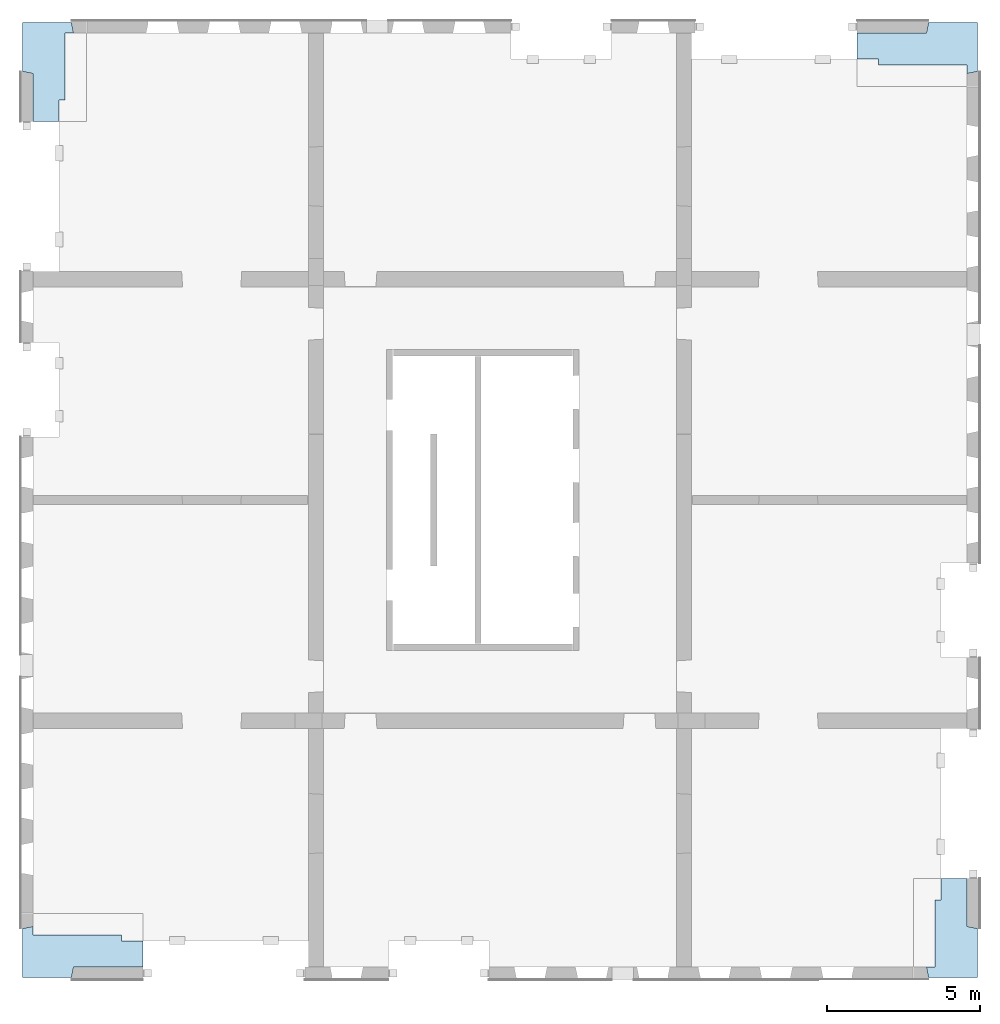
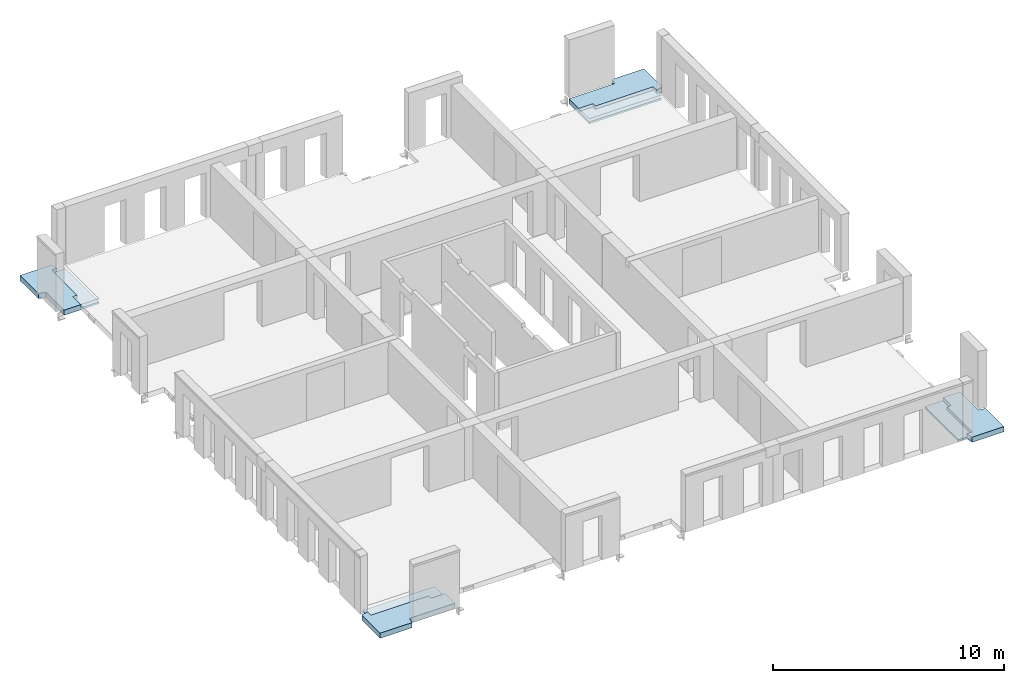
# One storey, part 5 of 6: 4 slabs.
"""IFC2X3 building model written with IfcOpenShell, lengths in millimetres."""

from ifc_helpers import new_model, entity, si_unit, converted_unit, derived_unit, direction, frame, origin, place, context, subcontext, project, spatial, faceted_brep, element, save


model = new_model("IFC2X3")

# Units and contexts
model_context = context("Model", 3, precision=0.01, world=origin(), true_north=direction((6.12303176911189e-17, 1.0)))
body_context = subcontext(model_context, "Body", "Model", "MODEL_VIEW")
ifc_project = project(units=[si_unit("LENGTHUNIT", "METRE", prefix="MILLI"), si_unit("AREAUNIT", "SQUARE_METRE"), si_unit("VOLUMEUNIT", "CUBIC_METRE"), converted_unit("PLANEANGLEUNIT", "DEGREE", entity("IfcRatioMeasure", 0.0174532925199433), si_unit("PLANEANGLEUNIT", "RADIAN"), dimensions=[0, 0, 0, 0, 0, 0, 0]), si_unit("MASSUNIT", "GRAM", prefix="KILO"), derived_unit("MASSDENSITYUNIT", [(si_unit("MASSUNIT", "GRAM", prefix="KILO"), 1), (si_unit("LENGTHUNIT", "METRE"), -3)]), si_unit("TIMEUNIT", "SECOND"), si_unit("FREQUENCYUNIT", "HERTZ"), si_unit("THERMODYNAMICTEMPERATUREUNIT", "DEGREE_CELSIUS"), derived_unit("THERMALTRANSMITTANCEUNIT", [(si_unit("MASSUNIT", "GRAM", prefix="KILO"), 1), (si_unit("THERMODYNAMICTEMPERATUREUNIT", "KELVIN"), -1), (si_unit("TIMEUNIT", "SECOND"), -3)]), derived_unit("VOLUMETRICFLOWRATEUNIT", [(si_unit("LENGTHUNIT", "METRE"), 3), (si_unit("TIMEUNIT", "SECOND"), -1)]), si_unit("ELECTRICCURRENTUNIT", "AMPERE"), si_unit("ELECTRICVOLTAGEUNIT", "VOLT"), si_unit("POWERUNIT", "WATT"), si_unit("FORCEUNIT", "NEWTON", prefix="KILO"), si_unit("ILLUMINANCEUNIT", "LUX"), si_unit("LUMINOUSFLUXUNIT", "LUMEN"), si_unit("LUMINOUSINTENSITYUNIT", "CANDELA"), derived_unit("USERDEFINED", [(si_unit("MASSUNIT", "GRAM", prefix="KILO"), -1), (si_unit("LENGTHUNIT", "METRE"), -2), (si_unit("TIMEUNIT", "SECOND"), 3), (si_unit("LUMINOUSFLUXUNIT", "LUMEN"), 1)]), derived_unit("LINEARVELOCITYUNIT", [(si_unit("LENGTHUNIT", "METRE"), 1), (si_unit("TIMEUNIT", "SECOND"), -1)]), si_unit("PRESSUREUNIT", "PASCAL"), derived_unit("USERDEFINED", [(si_unit("LENGTHUNIT", "METRE"), -2), (si_unit("MASSUNIT", "GRAM", prefix="KILO"), 1), (si_unit("TIMEUNIT", "SECOND"), -2)])], contexts=[model_context])

# Site, building, storey
site_placement = place(None, origin())
site = spatial("IfcSite", under=ifc_project, at=site_placement, Name="Default", CompositionType="ELEMENT")
building_placement = place(site_placement, origin())
building = spatial("IfcBuilding", under=site, at=building_placement, Name="niet gebruiken", CompositionType="ELEMENT")
storey_placement = place(building_placement, frame((0.0, 0.0, 21060.0)))
storey = spatial("IfcBuildingStorey", under=building, at=storey_placement, Name="06 zesde verdieping", CompositionType="ELEMENT", Elevation=21060.0)

# Slabs
slab_1_placement = place(storey_placement, origin())
element("IfcSlab", 1, at=slab_1_placement, inside=storey, Name="Floor:NLRS_23.22_FL_beton prefab d=270 3D element_gen", ObjectType="Floor:NLRS_23.22_FL_beton prefab d=270 3D element_gen", PredefinedType="LANDING", context=body_context, shape_type="Brep", body=[
    faceted_brep([(155722.852664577, 33063.0, -360.0), (157313.0, 33063.0, -360.0), (157313.0, 31472.8526645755, -360.0), (156980.0, 31405.0, -360.0), (156980.0, 30980.0, -360.0), (153390.0, 30980.0, -360.0), (153390.0, 32730.0, -360.0), (155655.0, 32730.0, -360.0), (157313.0, 33063.0, -90.0), (155722.852664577, 33063.0, -90.0), (155655.0, 32730.0, -90.0), (153390.0, 32730.0, -90.0), (153390.0, 31880.0, -90.0), (154090.0, 31880.0, -90.0), (154090.0, 31680.0, -90.0), (156980.0, 31680.0, -90.0), (156980.0, 31405.0, -90.0), (157313.0, 31472.8526645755, -90.0), (156980.0, 30980.0, -260.0), (153390.0, 30980.0, -260.0), (153390.0, 31880.0, -260.0), (156980.0, 31405.0, -260.0), (154090.0, 31880.0, -260.0), (156980.0, 31680.0, -260.0), (154090.0, 31680.0, -260.0)], [[[0, 1, 2, 3, 4, 5, 6, 7]], [[8, 9, 10, 11, 12, 13, 14, 15, 16, 17]], [[1, 0, 9, 8]], [[2, 1, 8, 17]], [[5, 4, 18, 19]], [[6, 5, 19, 20, 12, 11]], [[7, 6, 11, 10]], [[0, 7, 10, 9]], [[3, 2, 17, 16, 21]], [[4, 3, 21, 18]], [[22, 20, 19, 18, 21, 23, 24]], [[20, 22, 13, 12]], [[22, 24, 14, 13]], [[24, 23, 15, 14]], [[15, 23, 21, 16]]]),
])
slab_2_placement = place(storey_placement, origin())
element("IfcSlab", 2, at=slab_2_placement, inside=storey, Name="Floor:NLRS_23.22_FL_beton prefab d=270 3D element_gen", ObjectType="Floor:NLRS_23.22_FL_beton prefab d=270 3D element_gen", PredefinedType="LANDING", context=body_context, shape_type="Brep", body=[
    faceted_brep([(126187.0, 31472.852664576, -360.0), (126187.0, 33063.0, -360.0), (127777.147335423, 33063.0, -360.0), (127845.0, 32730.0, -360.0), (128270.0, 32730.0, -360.0), (128270.0, 29840.0, -360.0), (126520.0, 29840.0, -360.0), (126520.0, 31405.0, -360.0), (126187.0, 33063.0, -90.0), (126187.0, 31472.852664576, -90.0), (126520.0, 31405.0, -90.0), (126520.0, 29840.0, -90.0), (127370.0, 29840.0, -90.0), (127370.0, 30540.0, -90.0), (127570.0, 30540.0, -90.0), (127570.0, 32730.0, -90.0), (127845.0, 32730.0, -90.0), (127777.147335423, 33063.0, -90.0), (128270.0, 32730.0, -260.0), (128270.0, 29840.0, -260.0), (127370.0, 29840.0, -260.0), (127845.0, 32730.0, -260.0), (127370.0, 30540.0, -260.0), (127570.0, 32730.0, -260.0), (127570.0, 30540.0, -260.0)], [[[0, 1, 2, 3, 4, 5, 6, 7]], [[8, 9, 10, 11, 12, 13, 14, 15, 16, 17]], [[1, 0, 9, 8]], [[2, 1, 8, 17]], [[5, 4, 18, 19]], [[6, 5, 19, 20, 12, 11]], [[7, 6, 11, 10]], [[0, 7, 10, 9]], [[3, 2, 17, 16, 21]], [[4, 3, 21, 18]], [[22, 20, 19, 18, 21, 23, 24]], [[15, 23, 21, 16]], [[20, 22, 13, 12]], [[22, 24, 14, 13]], [[24, 23, 15, 14]]]),
])
slab_3_placement = place(storey_placement, origin())
element("IfcSlab", 3, at=slab_3_placement, inside=storey, Name="Floor:NLRS_23.22_FL_beton prefab d=270 3D element_gen", ObjectType="Floor:NLRS_23.22_FL_beton prefab d=270 3D element_gen", PredefinedType="LANDING", context=body_context, shape_type="Brep", body=[
    faceted_brep([(157313.0, 3527.14733542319, -360.0), (157313.0, 1937.0, -360.0), (155722.852664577, 1937.0, -360.0), (155655.0, 2270.0, -360.0), (155230.0, 2270.0, -360.0), (155230.0, 5160.0, -360.0), (156980.0, 5160.0, -360.0), (156980.0, 3595.0, -360.0), (157313.0, 1937.0, -90.0), (157313.0, 3527.14733542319, -90.0), (156980.0, 3595.0, -90.0), (156980.0, 5160.0, -90.0), (156130.0, 5160.0, -90.0), (156130.0, 4460.0, -90.0), (155930.0, 4460.0, -90.0), (155930.0, 2270.0, -90.0), (155655.0, 2270.0, -90.0), (155722.852664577, 1937.0, -90.0), (155230.0, 2270.0, -260.0), (155230.0, 5160.0, -260.0), (156130.0, 5160.0, -260.0), (155655.0, 2270.0, -260.0), (156130.0, 4460.0, -260.0), (155930.0, 2270.0, -260.0), (155930.0, 4460.0, -260.0)], [[[0, 1, 2, 3, 4, 5, 6, 7]], [[8, 9, 10, 11, 12, 13, 14, 15, 16, 17]], [[1, 0, 9, 8]], [[2, 1, 8, 17]], [[5, 4, 18, 19]], [[6, 5, 19, 20, 12, 11]], [[7, 6, 11, 10]], [[0, 7, 10, 9]], [[3, 2, 17, 16, 21]], [[4, 3, 21, 18]], [[22, 20, 19, 18, 21, 23, 24]], [[15, 23, 21, 16]], [[20, 22, 13, 12]], [[22, 24, 14, 13]], [[24, 23, 15, 14]]]),
])
slab_4_placement = place(storey_placement, origin())
element("IfcSlab", 4, at=slab_4_placement, inside=storey, Name="Floor:NLRS_23.22_FL_beton prefab d=270 3D element_gen", ObjectType="Floor:NLRS_23.22_FL_beton prefab d=270 3D element_gen", PredefinedType="LANDING", context=body_context, shape_type="Brep", body=[
    faceted_brep([(127777.147335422, 1937.0, -360.0), (126187.0, 1937.0, -360.0), (126187.0, 3527.14733542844, -360.0), (126520.0, 3595.0, -360.0), (126520.0, 4020.0, -360.0), (130110.0, 4020.0, -360.0), (130110.0, 2270.0, -360.0), (127845.0, 2270.0, -360.0), (126187.0, 1937.0, -90.0), (127777.147335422, 1937.0, -90.0), (127845.0, 2270.0, -90.0), (130110.0, 2270.0, -90.0), (130110.0, 3120.0, -90.0), (129410.0, 3120.0, -90.0), (129410.0, 3320.0, -90.0), (126520.0, 3320.0, -90.0), (126520.0, 3595.0, -90.0), (126187.0, 3527.14733542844, -90.0), (126520.0, 4020.0, -260.0), (130110.0, 4020.0, -260.0), (130110.0, 3120.0, -260.0), (126520.0, 3595.0, -260.0), (129410.0, 3120.0, -260.0), (126520.0, 3320.0, -260.0), (129410.0, 3320.0, -260.0)], [[[0, 1, 2, 3, 4, 5, 6, 7]], [[8, 9, 10, 11, 12, 13, 14, 15, 16, 17]], [[1, 0, 9, 8]], [[2, 1, 8, 17]], [[5, 4, 18, 19]], [[6, 5, 19, 20, 12, 11]], [[7, 6, 11, 10]], [[0, 7, 10, 9]], [[3, 2, 17, 16, 21]], [[4, 3, 21, 18]], [[22, 20, 19, 18, 21, 23, 24]], [[20, 22, 13, 12]], [[22, 24, 14, 13]], [[24, 23, 15, 14]], [[15, 23, 21, 16]]]),
])

save(model, "model.ifc")
